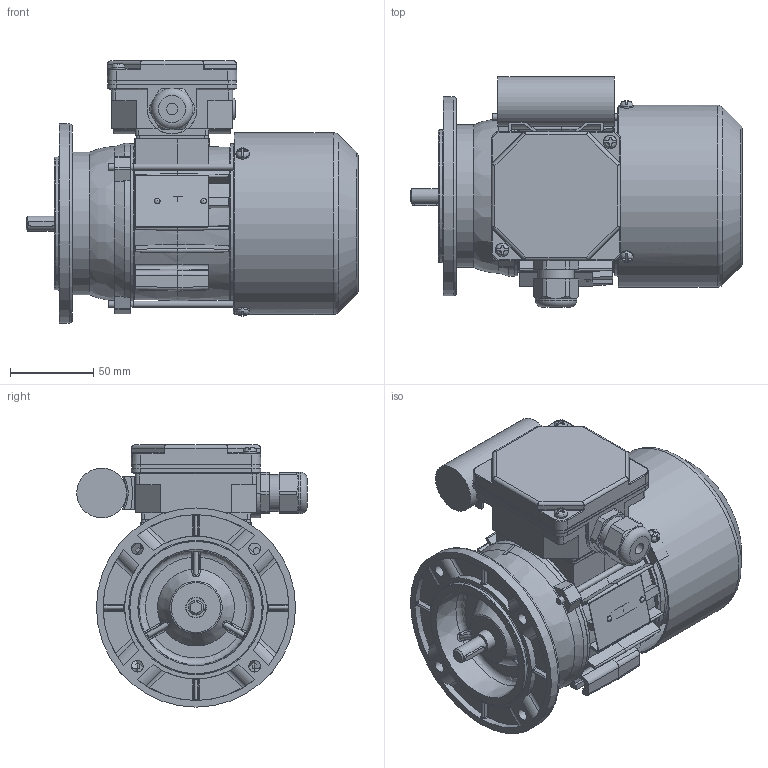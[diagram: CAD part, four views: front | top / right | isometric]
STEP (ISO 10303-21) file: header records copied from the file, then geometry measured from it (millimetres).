
FILE_DESCRIPTION( ( 'Unknown' ), '1' );
FILE_NAME( 'G:/Poczta Tk-1/STP/w.m.56/SEh56/SE(M)Kh56-C.stp', 'Unknown', ( 'K. Szlosek' ), ( 'BESEL S.A.' ), 'PSStep 17.0.49', 'Unknown', ' ' );
FILE_SCHEMA( ( 'AUTOMOTIVE_DESIGN { 1 0 10303 214 1 1 1 1 }' ) );
Length unit declared in the file: millimetre
Products named in the file (31): Assem1; K4-2320 Uszczelka nr 1 Sh71,80; K3-2193 Tarcza łożyskowa P Sg56-2..; K2-0860 Pokrywka skrzynki zaciskowej; Wpust A3x3x16; K3-2977 Osłona przewietrznika Sg56; K4-2820 Uszczelka nr 2 Sh71,80; Wkręt samogwintujący M4x8; Wkręt samogwintujący M4x16; K2-0879 Przewietrznik Sg56; Nitokołek A 2x6; K3-9440 Podstawa  skrzynki zaciskowej SEhR71-D; K4-0898 Tulejka uszczelniająca; K3-1974 Uchwyt kondensatora (mały); Kondensator bb 8uF; K3-9987 kadłub ze stojanem Sh56-C; K3-9990 wał Sh56-C; K1-0512 Tarcza kołnierzowa B5  SKg56-..; Śruba ściągająca E_M4x85; Tabliczka znamionowa 32x44; Dławnica M20x1,5; Łożysko 6201
Assembly tree (46 placements, depth 2):
  Assem1
    K4-2320 Uszczelka nr 1 Sh71,80
    K3-2193 Tarcza łożyskowa P Sg56-2..
    K2-0860 Pokrywka skrzynki zaciskowej
    Wpust A3x3x16
    K3-2977 Osłona przewietrznika Sg56
    K4-2820 Uszczelka nr 2 Sh71,80
    Wkręt samogwintujący M4x8  x3
    Wkręt samogwintujący M4x16  x2
    K2-0879 Przewietrznik Sg56
    Nitokołek A 2x6  x2
    K3-9440 Podstawa  skrzynki zaciskowej SEhR71-D
    K4-0898 Tulejka uszczelniająca
    K3-1974 Uchwyt kondensatora (mały)
    Kondensator bb 8uF
    K3-9987 kadłub ze stojanem Sh56-C
    K3-9990 wał Sh56-C
    K1-0512 Tarcza kołnierzowa B5  SKg56-..
    Śruba ściągająca E_M4x85  x3
    Tabliczka znamionowa 32x44
    Dławnica M20x1,5
    Łożysko 6201  x2
    Łożysko 6201  x2
    Łożysko 6201  x2
    Łożysko 6201  x2
    Łożysko 6201  x2
    Łożysko 6201  x2
    Łożysko 6201  x2
    Łożysko 6201  x2
    Łożysko 6201  x2
    Łożysko 6201  x2
Bounding box: 200 x 138.82 x 158 mm (x, y, z)
Volume: 488854.8 mm3; surface area: 320990.7 mm2
Topology: 46 solids, 62 shells, 1841 faces, 4952 edges, 3200 vertices
Faces by surface type: plane 937, cylinder 549, bspline 119, cone 104, torus 98, sphere 34
Full cylindrical faces by diameter (mm): 2 x2, 2.4 x2, 3 x1, 3.3 x3, 3.5 x2, 3.7 x10, 4 x8, 4.5 x4, 4.6 x1, 4.8 x4, 5 x4, 6.5 x1, 7 x8, 8 x6, 9 x1, 10 x2, 10.9 x1, 11 x1, 11.5 x1, 11.8 x2, 12 x4, 12.4 x2, 15.5 x1, 16 x1, 16.1 x1, 17 x2, 18.38 x1, 18.5 x1, 18.52 x4, 20 x1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
Entity records: 81345 total; most frequent: CARTESIAN_POINT 27129, ORIENTED_EDGE 8512, DIRECTION 8392, EDGE_CURVE 4256, AXIS2_PLACEMENT_3D 3110, VERTEX_POINT 2882, LINE 2172, VECTOR 2172
